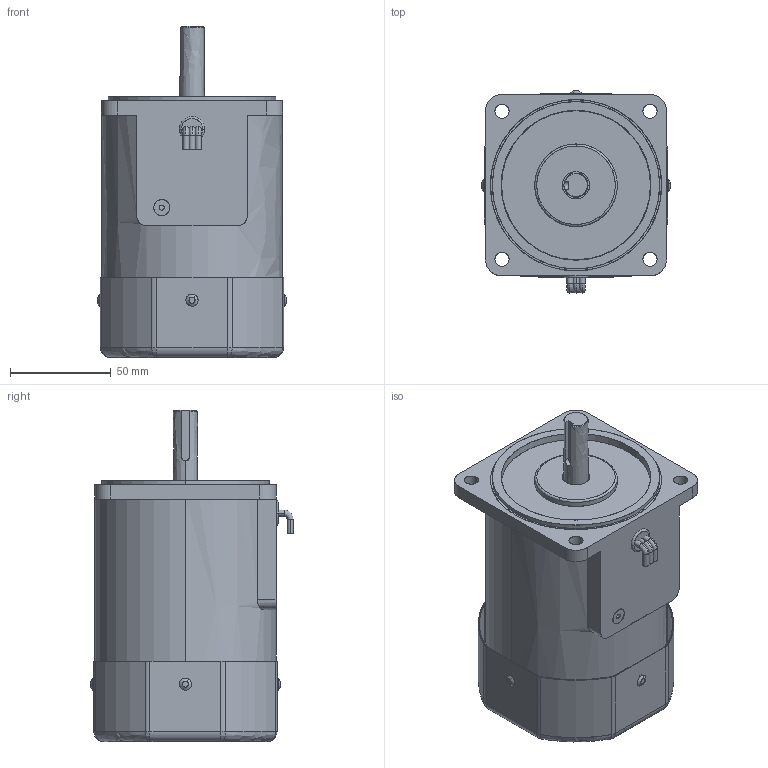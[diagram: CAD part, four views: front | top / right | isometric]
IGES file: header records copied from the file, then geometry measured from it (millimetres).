
Start section: SolidWorks IGES file using analytic representation for surfaces
Bounding box: 94 x 100.5 x 164.5 mm (x, y, z)
Surface area: 92022.5 mm2 (no closed solid volume)
Topology: 0 solids, 0 shells, 144 faces, 2304 edges, 2296 vertices
Faces by surface type: revolution 78, bspline 66
